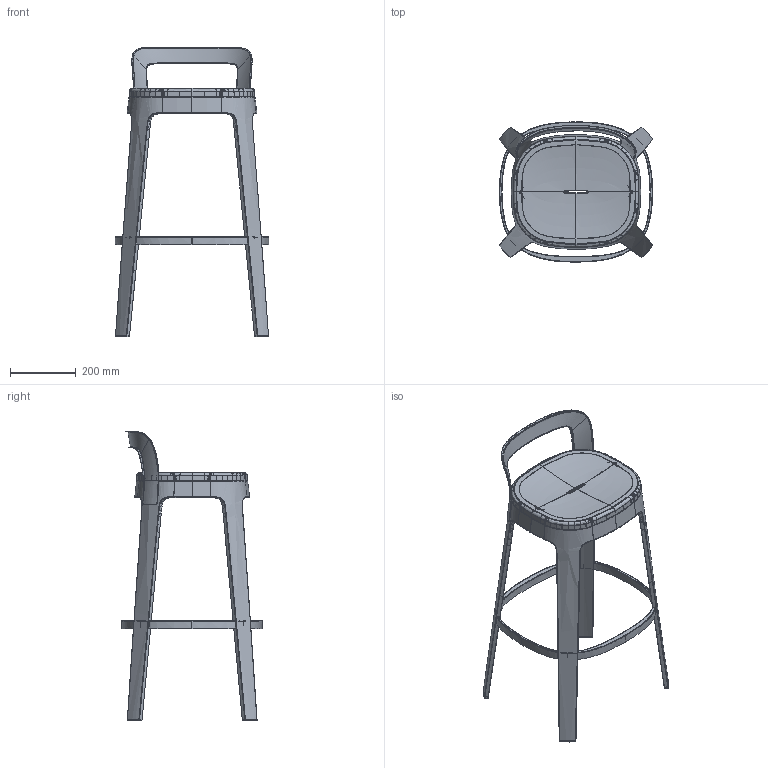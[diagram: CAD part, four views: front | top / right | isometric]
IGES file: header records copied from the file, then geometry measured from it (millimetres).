
Start section: START RECORD GO HERE.
Global section: file name: ombra_stool_75h+b.igs; native system: DASSAULT SYSTEMES CATIA Version 5-6 Release 2017 - www.3ds.com; preprocessor: V5-6R2017_5.27.0.0.10-19-2016.20.00; author: RAFA; organization: RAFA-PC; date: 20181017.173133; units: millimetre
Bounding box: 465.79 x 426 x 880.28 mm (x, y, z)
Surface area: 1307370.6 mm2 (no closed solid volume)
Topology: 0 solids, 0 shells, 1935 faces, 8534 edges, 8525 vertices
Faces by surface type: bspline 1893, plane 42
